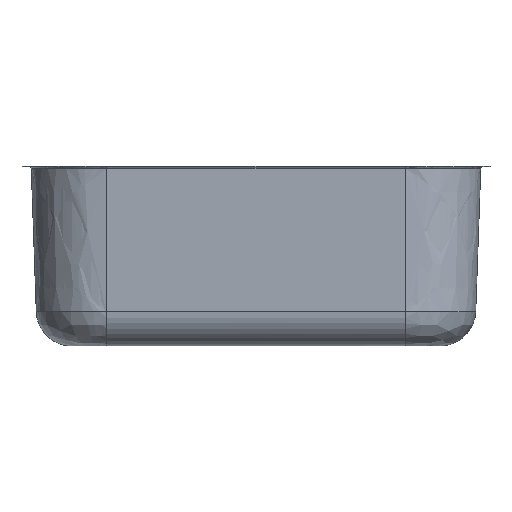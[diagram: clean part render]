
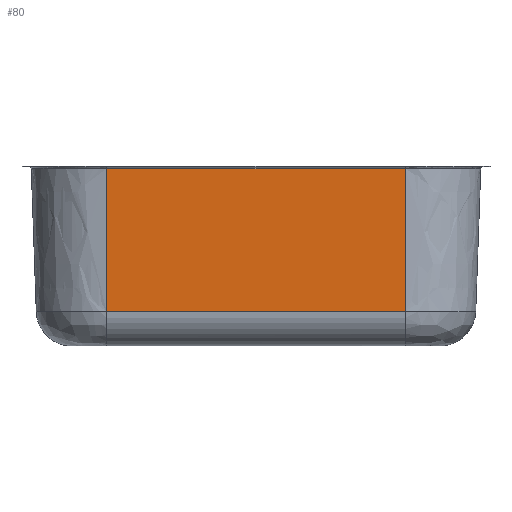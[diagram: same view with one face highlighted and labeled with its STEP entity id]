
A CAD part, left-side view. The second image highlights one B-rep face of the part: STEP entity #80.
In plain terms, the highlighted planar face has unit normal (-0.999, 0, -0.035).
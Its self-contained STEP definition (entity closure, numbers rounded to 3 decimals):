
#80=ADVANCED_FACE('',(#183),#184,.T.);
#183=FACE_OUTER_BOUND('',#497,.T.);
#184=PLANE('',#498);
#497=EDGE_LOOP('',(#4231,#4232,#4233,#4234));
#498=AXIS2_PLACEMENT_3D('',#4235,#4236,#4237);
#4231=ORIENTED_EDGE('',*,*,#4878,.T.);
#4232=ORIENTED_EDGE('',*,*,#4879,.T.);
#4233=ORIENTED_EDGE('',*,*,#4880,.T.);
#4234=ORIENTED_EDGE('',*,*,#4876,.F.);
#4235=CARTESIAN_POINT('',(-197.647,0.,-89.324));
#4236=DIRECTION('',(-0.999,0.0,-0.035));
#4237=DIRECTION('',(-0.035,0.0,0.999));
#4876=EDGE_CURVE('',#5134,#5136,#5137,.T.);
#4878=EDGE_CURVE('',#5134,#5139,#5140,.T.);
#4879=EDGE_CURVE('',#5139,#5141,#5142,.T.);
#4880=EDGE_CURVE('',#5141,#5136,#5143,.F.);
#5134=VERTEX_POINT('',#5650);
#5136=VERTEX_POINT('',#5690);
#5137=B_SPLINE_CURVE_WITH_KNOTS('',1,(#5691,#5692),.UNSPECIFIED.,.F.,.F.,(2,2),(33.799,177.502),.UNSPECIFIED.);
#5139=VERTEX_POINT('',#5708);
#5140=LINE('',#5709,#5710);
#5141=VERTEX_POINT('',#5711);
#5142=LINE('',#5712,#5713);
#5143=LINE('',#5714,#5715);
#5650=CARTESIAN_POINT('',(-195.683,150.09,-145.546));
#5690=CARTESIAN_POINT('',(-200.699,150.09,-1.93));
#5691=CARTESIAN_POINT('',(-195.683,150.09,-145.546));
#5692=CARTESIAN_POINT('',(-200.699,150.09,-1.93));
#5708=CARTESIAN_POINT('',(-195.683,-150.09,-145.546));
#5709=CARTESIAN_POINT('',(-195.683,0.,-145.546));
#5710=VECTOR('',#7223,1.0);
#5711=CARTESIAN_POINT('',(-200.699,-150.09,-1.93));
#5712=CARTESIAN_POINT('',(-198.191,-150.09,-73.738));
#5713=VECTOR('',#7224,1.0);
#5714=CARTESIAN_POINT('',(-200.699,0.,-1.93));
#5715=VECTOR('',#7225,1.0);
#7223=DIRECTION('',(0.0,-1.0,0.0));
#7224=DIRECTION('',(-0.035,0.0,0.999));
#7225=DIRECTION('',(0.0,-1.0,0.0));
